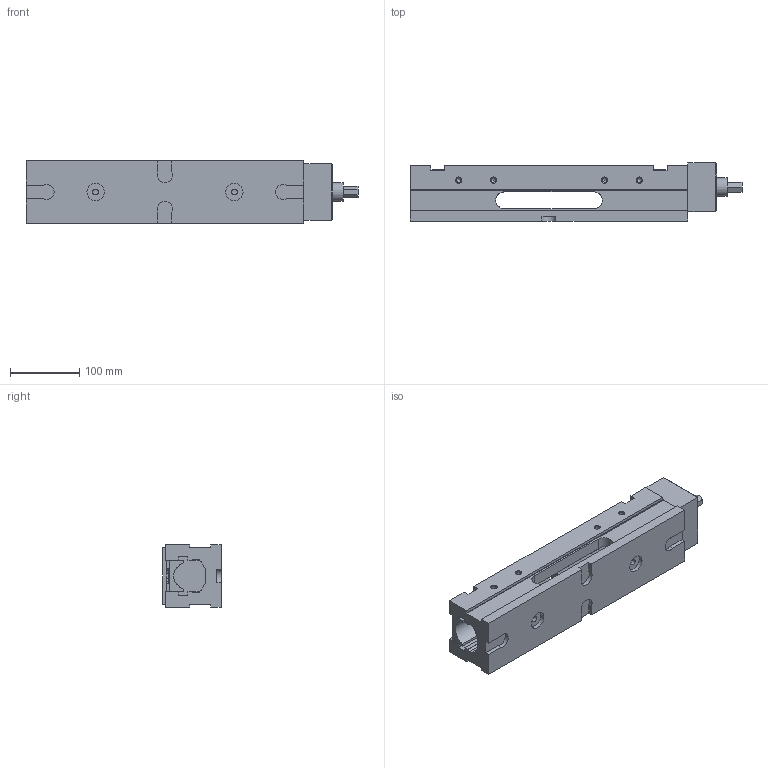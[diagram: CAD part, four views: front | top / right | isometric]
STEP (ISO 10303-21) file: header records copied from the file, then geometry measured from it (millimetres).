
FILE_DESCRIPTION (( 'STEP AP214' ), '1' );
FILE_NAME ('6921478000955.STEP', '2019-07-15T06:09:25', ( '' ), ( '' ), 'SwSTEP 2.0', 'SolidWorks 2018', '' );
FILE_SCHEMA (( 'AUTOMOTIVE_DESIGN' ));
Length unit declared in the file: millimetre
Products named in the file (1): 6921478000955
Bounding box: 478.2 x 83.85 x 90 mm (x, y, z)
Volume: 1914891.8 mm3; surface area: 283285.5 mm2
Topology: 1 solids, 1 shells, 387 faces, 1070 edges, 682 vertices
Faces by surface type: plane 212, cylinder 95, cone 80
Full cylindrical faces by diameter (mm): 6.8 x16, 8.5 x26, 25 x2, 26.5 x1
Entity records: 14846 total; most frequent: CARTESIAN_POINT 3401, DIRECTION 1887, ORIENTED_EDGE 1852, EDGE_CURVE 926, VERTEX_POINT 639, VECTOR 629, LINE 629, AXIS2_PLACEMENT_3D 629
